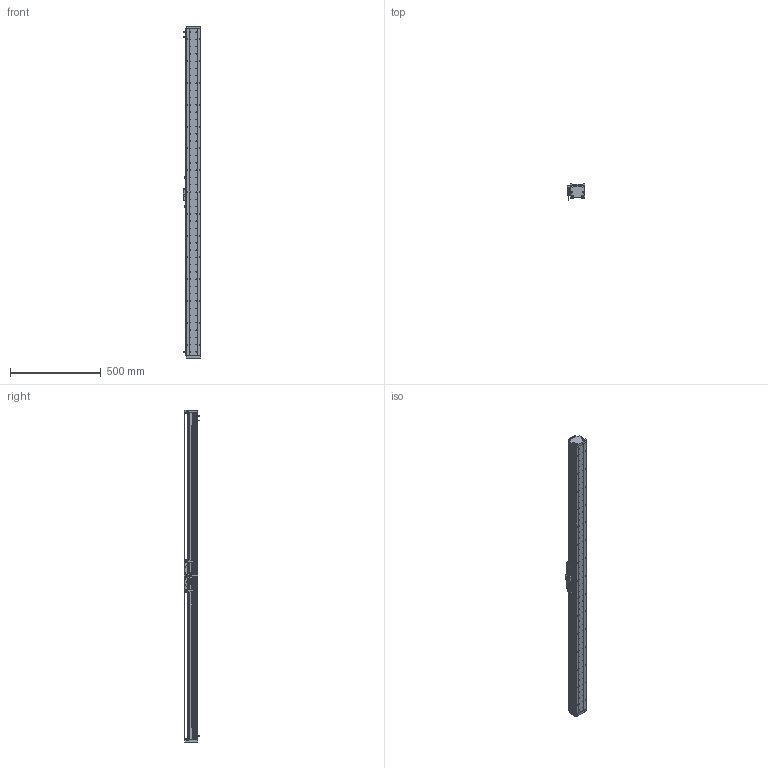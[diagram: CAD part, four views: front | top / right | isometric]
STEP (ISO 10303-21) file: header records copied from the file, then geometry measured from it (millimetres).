
FILE_DESCRIPTION (( 'STEP AP203' ), '1' );
FILE_NAME ('DA-A82-B2-T1580-C010-0.2 眻盄萇儂.STEP', '2025-08-13T03:10:44', ( '' ), ( '' ), 'SwSTEP 2.0', 'SolidWorks 2019', '' );
FILE_SCHEMA (( 'CONFIG_CONTROL_DESIGN' ));
Length unit declared in the file: millimetre
Products named in the file (23): IU-AU82-L 菁釱絳寢; AU82-M-00 珨极趙賑雄怢啣; 葩璃 DMT-010 1米m 0.2M^DA-A82-B2-T-C010-0.2; 复件 纯铜油杯 6x6mm^AU82-M 滚珠滑台; 葩璃 PM-T45^DA-A82-B2-T-C010-0.2; 葩璃 DA82-B2-DP-00 結え^AU82-M 幗紩賑怢; 复件 复件 DA82-XJ-00 缓冲橡胶^DA-A82-B2-T-C010-0.2; 葩璃 葩璃 17517-0000-002-00 傷啣^DA-A82-B2-T-C010-0.2; 葩璃 鞠褒情蹟譫 M3^DA-A82-B2-T-C010-0.2; ｸｴｼ BKM02-W040-C1-TP-DA-3.0 ﾖｱﾏﾟｵ扈巐ｯﾗﾓ^DA-A82-B2-T-C010-0.2; IU-AU82-L-00 菁釱(L1800); DA-A82-B2-T1580-C010-0.2 眻盄萇儂; AU82-M 幗紩賑怢; 葩璃 BKM01-W040-TRL^DA-A82-B2-T-C010-0.2; DA-A60-GYP-DMT-00 光电感应片^DA-A82-B2-T-C010-0.2(默认); 葩璃 DA60-DMT-DTJ-00 黍杅芛盓殤^DA-A82-B2-T-C010-0.2; 复件 DA95-GT-T-00 底座钢轨^IU-AU82-L 底座导轨; 复件 复件 17517-0000-004-00  钢带压块^DA-A82-B2-T-C010-0.2(默认); 葩璃 XD-U-02  棠掑喜^DA-A82-B2-T-C010-0.2; AU82-HT-M-00 賑雄怢啣; 复件 复件 17517-0000-003-00 钢带拉块^DA-A82-B2-T-C010-0.2; 复件 复件 复件 DA82 钢带盖板^DA-A82-B2-T-C010-0.2(默认); 复件 DA95-B2-GT-00 滑块钢轨^AU82-M-00 一体化滑动台板
Assembly tree (40 placements, depth 4):
  DA-A82-B2-T1580-C010-0.2 眻盄萇儂
    IU-AU82-L 菁釱絳寢
      IU-AU82-L-00 菁釱(L1800)
      复件 DA95-GT-T-00 底座钢轨^IU-AU82-L 底座导轨  x2
    AU82-M 幗紩賑怢
      AU82-M-00 珨极趙賑雄怢啣
        AU82-HT-M-00 賑雄怢啣
        复件 DA95-B2-GT-00 滑块钢轨^AU82-M-00 一体化滑动台板  x4
      葩璃 DA82-B2-DP-00 結え^AU82-M 幗紩賑怢  x2
      复件 纯铜油杯 6x6mm^AU82-M 滚珠滑台  x2
    葩璃 DA60-DMT-DTJ-00 黍杅芛盓殤^DA-A82-B2-T-C010-0.2
    葩璃 DMT-010 1米m 0.2M^DA-A82-B2-T-C010-0.2
    DA-A60-GYP-DMT-00 光电感应片^DA-A82-B2-T-C010-0.2(默认)  x2
    ｸｴｼ BKM02-W040-C1-TP-DA-3.0 ﾖｱﾏﾟｵ扈巐ｯﾗﾓ^DA-A82-B2-T-C010-0.2
    复件 复件 17517-0000-003-00 钢带拉块^DA-A82-B2-T-C010-0.2  x2
    复件 复件 DA82-XJ-00 缓冲橡胶^DA-A82-B2-T-C010-0.2  x2
    复件 复件 17517-0000-004-00  钢带压块^DA-A82-B2-T-C010-0.2(默认)  x2
    葩璃 葩璃 17517-0000-002-00 傷啣^DA-A82-B2-T-C010-0.2  x2
    复件 复件 复件 DA82 钢带盖板^DA-A82-B2-T-C010-0.2(默认)
    葩璃 BKM01-W040-TRL^DA-A82-B2-T-C010-0.2
    葩璃 PM-T45^DA-A82-B2-T-C010-0.2  x3
    葩璃 XD-U-02  棠掑喜^DA-A82-B2-T-C010-0.2
    葩璃 鞠褒情蹟譫 M3^DA-A82-B2-T-C010-0.2  x6
Bounding box: 98.95 x 87.2 x 1828 mm (x, y, z)
Volume: 5220062.4 mm3; surface area: 1584940 mm2
Topology: 44 solids, 68 shells, 2479 faces, 6608 edges, 4178 vertices
Faces by surface type: cylinder 1249, plane 940, cone 272, bspline 8, torus 8, sphere 2
Entity records: 69849 total; most frequent: CARTESIAN_POINT 16007, DIRECTION 10919, ORIENTED_EDGE 10320, EDGE_CURVE 5160, AXIS2_PLACEMENT_3D 4205, VERTEX_POINT 3362, EDGE_LOOP 2634, VECTOR 2509
